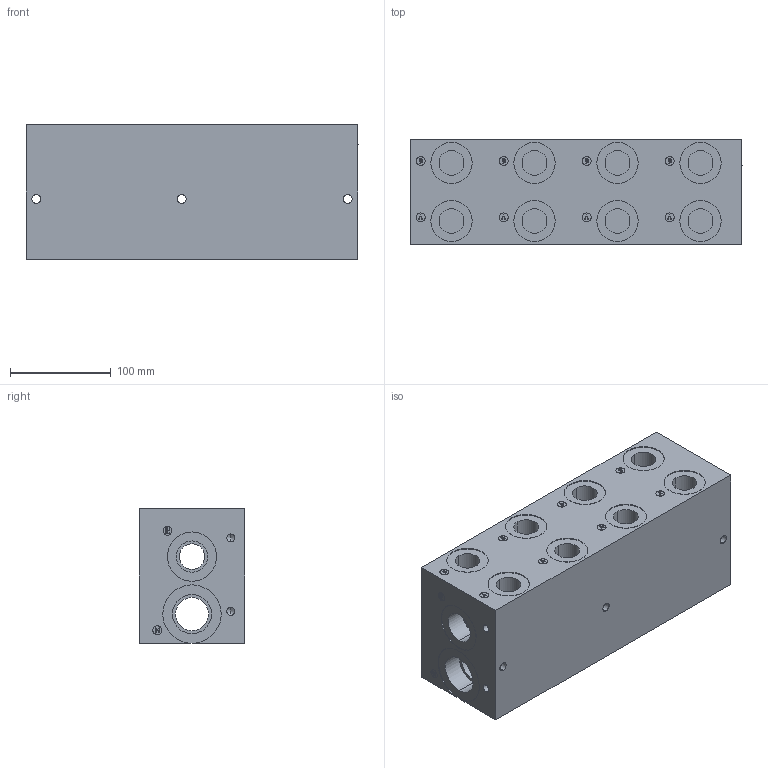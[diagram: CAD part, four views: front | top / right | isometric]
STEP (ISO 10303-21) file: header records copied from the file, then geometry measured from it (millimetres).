
FILE_DESCRIPTION (( 'STEP AP203' ), '1' );
FILE_NAME ('BM-AHP05S3-04-1_Z.STEP', '2015-01-06T16:00:20', ( '' ), ( '' ), 'SwSTEP 2.0', 'SolidWorks 2014', '' );
FILE_SCHEMA (( 'CONFIG_CONTROL_DESIGN' ));
Length unit declared in the file: inch
Products named in the file (1): BM-AHP05S3-04-1_Z
Bounding box: 330.2 x 104.65 x 133.35 mm (x, y, z)
Volume: 4010065.4 mm3; surface area: 277015.6 mm2
Topology: 1 solids, 1 shells, 566 faces, 1365 edges, 850 vertices
Faces by surface type: plane 247, cylinder 191, cone 72, bspline 56
Entity records: 19226 total; most frequent: CARTESIAN_POINT 6318, ORIENTED_EDGE 2586, DIRECTION 2585, EDGE_CURVE 1293, AXIS2_PLACEMENT_3D 893, VERTEX_POINT 850, VECTOR 799, LINE 799
